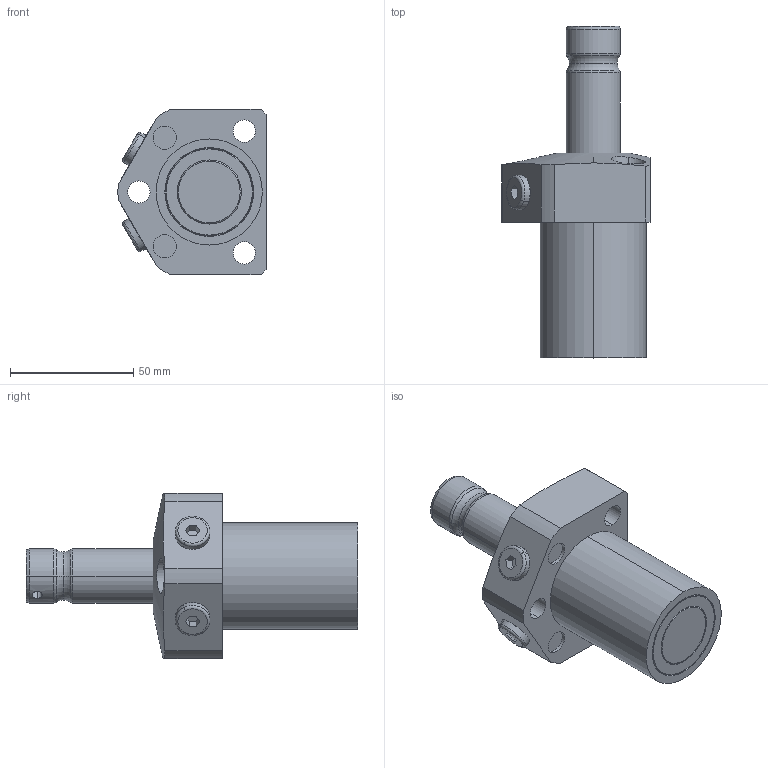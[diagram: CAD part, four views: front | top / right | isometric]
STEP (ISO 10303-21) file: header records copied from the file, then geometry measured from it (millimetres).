
FILE_DESCRIPTION (( 'STEP AP203' ), '1' );
FILE_NAME ('231001-CR.STEP', '2019-06-29T08:09:03', ( '微软用户' ), ( '微软中国' ), 'SwSTEP 2.0', 'SolidWorks 2014', '' );
FILE_SCHEMA (( 'CONFIG_CONTROL_DESIGN' ));
Length unit declared in the file: millimetre
Products named in the file (5): 葩璃 4BN-02WD^231001-CR; 葩璃 231001.01^231001-CR; 葩璃 231001.04^231001-CR; 231001-CR; 葩璃 231001.02^231001-CR
Assembly tree (5 placements, depth 2):
  231001-CR
    葩璃 231001.02^231001-CR
    葩璃 4BN-02WD^231001-CR  x2
    葩璃 231001.01^231001-CR
    葩璃 231001.04^231001-CR
Bounding box: 59.99 x 134.5 x 67 mm (x, y, z)
Volume: 195966.4 mm3; surface area: 32620 mm2
Topology: 5 solids, 5 shells, 135 faces, 284 edges, 176 vertices
Faces by surface type: cylinder 51, plane 46, torus 20, cone 18
Entity records: 3899 total; most frequent: CARTESIAN_POINT 921, DIRECTION 565, ORIENTED_EDGE 460, AXIS2_PLACEMENT_3D 237, EDGE_CURVE 230, VERTEX_POINT 144, EDGE_LOOP 130, CIRCLE 120
